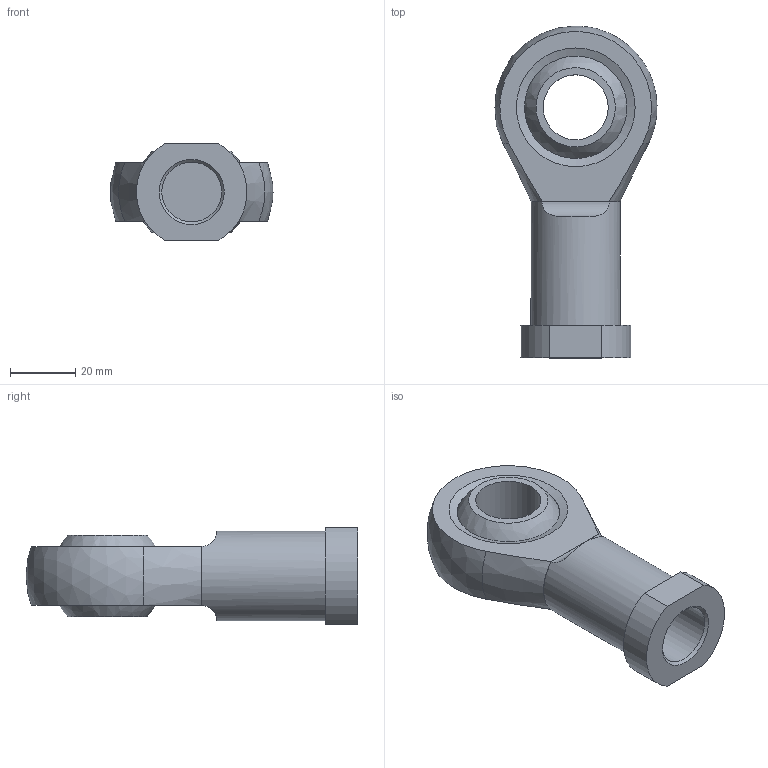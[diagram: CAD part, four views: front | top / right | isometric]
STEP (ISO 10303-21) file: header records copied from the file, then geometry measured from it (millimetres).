
FILE_DESCRIPTION( ( 'STEP AP214' ), '1' );
FILE_NAME( 'C:/Users/EMC02301/Desktop/气缸连接附件/FJ-M20X1.5BJ.stp', '2026-08-19T05:40:09', ( 'License CC BY-ND 4.0' ), ( 'CADENAS' ), ' ', 'PARTsolutions', ' ' );
FILE_SCHEMA( ( 'AUTOMOTIVE_DESIGN { 1 0 10303 214 1 1 1 1 }' ) );
Length unit declared in the file: millimetre
Products named in the file (1): _FJ-M20x1.5BJ
Bounding box: 49.81 x 102 x 30 mm (x, y, z)
Volume: 53491.9 mm3; surface area: 15758.9 mm2
Topology: 1 solids, 1 shells, 27 faces, 58 edges, 39 vertices
Faces by surface type: plane 10, cylinder 9, cone 5, sphere 3
Full cylindrical faces by diameter (mm): 18.376 x1, 20 x1, 27.5 x1, 31.5 x2
Entity records: 1010 total; most frequent: CARTESIAN_POINT 233, DIRECTION 120, ORIENTED_EDGE 88, AXIS2_PLACEMENT_3D 54, EDGE_LOOP 44, EDGE_CURVE 44, VERTEX_POINT 35, FACE_OUTER_BOUND 32
